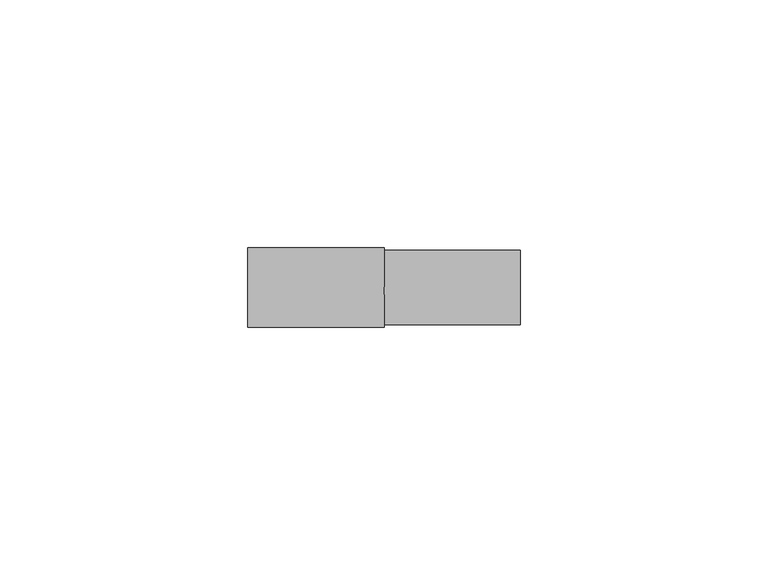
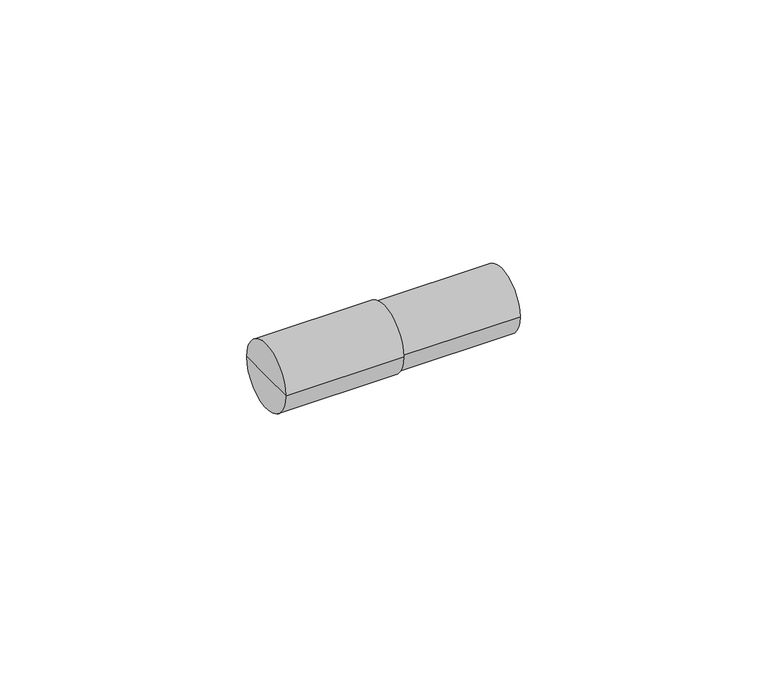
"""IFC4 building model written with IfcOpenShell, lengths in millimetres: pipe fitting geometry, NLRS_50_PIF_UN_Geberit PushFit overgang naar Geberit Mapress, met insteekeinden_PRO_102728 : DN12-20 / d16-25 - OD."""

from ifc_helpers import new_model, si_unit, frame, origin, place, context, project, spatial, circle_curve, source, transform, mapped, element, save
from ifc_brep_helpers import plane_surface, cylinder_surface, advanced_brep


def pipe_fitting_7e052b8f(model_context):
    return source(origin(), model_context, "Body", "AdvancedBrep", [
        advanced_brep(
        [(0.0, 7.5, 0.0), (27.5, 7.5, 0.0), (27.5, -7.5, 0.0), (0.0, -7.5, 0.0), (27.5, 0.0, 0.0), (-27.5, -8.0, 0.0), (-27.5, 8.0, 0.0), (0.0, 8.0, 0.0), (0.0, -8.0, 0.0), (-27.5, 0.0, 0.0)],
        [
            (0, 1),
            (1, 2, circle_curve(frame((27.5, 0.0, 0.0), z_axis=(-1.0, 0.0, 0.0), x_axis=(0.0, 1.0, 0.0)), 7.5)),
            (2, 3),
            (3, 0, circle_curve(frame((0.0, 0.0, 0.0), z_axis=(1.0, 0.0, 0.0), x_axis=(0.0, 1.0, 0.0)), 7.5)),
            (0, 3, circle_curve(frame((0.0, 0.0, 0.0), z_axis=(1.0, 0.0, 0.0), x_axis=(0.0, 1.0, 0.0)), 7.5)),
            (2, 1, circle_curve(frame((27.5, 0.0, 0.0), z_axis=(-1.0, 0.0, 0.0), x_axis=(0.0, 1.0, 0.0)), 7.5)),
            (1, 4),
            (4, 2),
            (5, 6, circle_curve(frame((-27.5, 0.0, 0.0), z_axis=(1.0, 0.0, 0.0), x_axis=(0.0, 1.0, 0.0)), 8.0)),
            (6, 7),
            (7, 8, circle_curve(frame((0.0, 0.0, 0.0), z_axis=(-1.0, 0.0, 0.0), x_axis=(0.0, 1.0, 0.0)), 8.0)),
            (8, 5),
            (6, 5, circle_curve(frame((-27.5, 0.0, 0.0), z_axis=(1.0, 0.0, 0.0), x_axis=(0.0, 1.0, 0.0)), 8.0)),
            (8, 7, circle_curve(frame((0.0, 0.0, 0.0), z_axis=(-1.0, 0.0, 0.0), x_axis=(0.0, 1.0, 0.0)), 8.0)),
            (5, 9),
            (9, 6),
            (7, 0),
            (3, 8),
        ],
        [
            cylinder_surface(frame((43.586804, 0.0, 0.0), z_axis=(-1.0, 0.0, 0.0), x_axis=(0.0, 1.0, 0.0)), 7.5),
            plane_surface(frame((27.5, 0.0, 0.0), z_axis=(1.0, 0.0, 0.0), x_axis=(0.0, 1.0, 0.0))),
            cylinder_surface(frame((-41.6665386, 0.0, 0.0), z_axis=(-1.0, 0.0, 0.0), x_axis=(0.0, 1.0, 0.0)), 8.0),
            plane_surface(frame((-27.5, 0.0, 0.0), z_axis=(-1.0, 0.0, 0.0), x_axis=(0.0, 1.0, 0.0))),
            plane_surface(frame((0.0, 0.0, 0.0), z_axis=(1.0, 0.0, 0.0), x_axis=(0.0, 1.0, 0.0))),
        ],
        [
            (0, [[1, 2, 3, 4]]),
            (0, [[-1, 5, -3, 6]]),
            (1, [[-2, 7, 8]]),
            (1, [[-6, -8, -7]]),
            (2, [[9, 10, 11, 12]]),
            (2, [[-10, 13, -12, 14]]),
            (3, [[-9, 15, 16]]),
            (3, [[-13, -16, -15]]),
            (4, [[-11, 17, -4, 18]]),
            (4, [[-14, -18, -5, -17]]),
        ],
    ),
    ])


if __name__ == "__main__":
    model = new_model("IFC4")
    model_context = context("Model", 3, world=origin())
    ifc_project = project(units=[si_unit("LENGTHUNIT", "METRE", prefix="MILLI")], contexts=[model_context])
    site = spatial("IfcSite", under=ifc_project)
    building = spatial("IfcBuilding", under=site)
    placement = place(None, origin())
    pipe_fitting_shape = pipe_fitting_7e052b8f(model_context)
    element("IfcPipeFitting", 1, ObjectType="NLRS_50_PIF_UN_Geberit PushFit overgang naar Geberit Mapress, met insteekeinden_PRO_102728 : DN12-20 / d16-25 - OD", at=placement, inside=building, context=model_context, shape_type="MappedRepresentation", body=[
        mapped(pipe_fitting_shape, transform((0.0, 0.0, 0.0), x_axis=(1.0, 0.0, 0.0), y_axis=(0.0, 1.0, 0.0), z_axis=(0.0, 0.0, 1.0))),
    ])
    save(model, "model.ifc")
